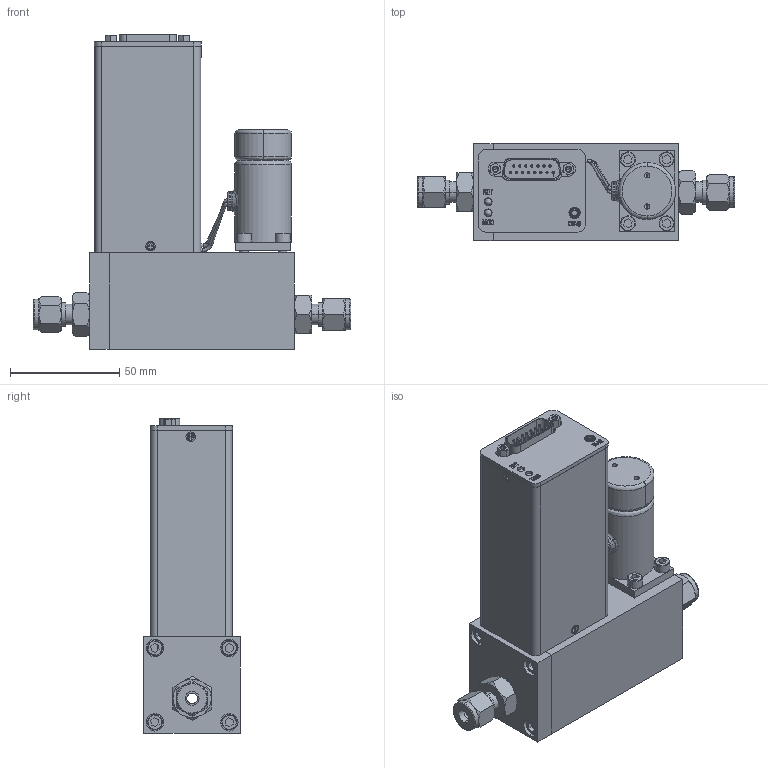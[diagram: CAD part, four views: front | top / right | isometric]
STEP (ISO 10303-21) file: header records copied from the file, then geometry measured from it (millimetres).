
FILE_DESCRIPTION (( 'STEP AP214' ), '1' );
FILE_NAME ('SLA5851-S-1B-1-L-REVB.STEP', '2023-03-08T21:07:43', ( '' ), ( '' ), 'SwSTEP 2.0', 'SolidWorks 2020', '' );
FILE_SCHEMA (( 'AUTOMOTIVE_DESIGN' ));
Length unit declared in the file: inch
Products named in the file (1): SLA5851-S-1B-1-L-REVB
Bounding box: 144.86 x 44.3 x 143.85 mm (x, y, z)
Volume: 63229.1 mm3; surface area: 98436.3 mm2
Topology: 53 solids, 53 shells, 1342 faces, 3306 edges, 2128 vertices
Faces by surface type: plane 687, cylinder 366, cone 195, bspline 94
Entity records: 61059 total; most frequent: CARTESIAN_POINT 11955, DIRECTION 6604, ORIENTED_EDGE 6596, EDGE_CURVE 3298, AXIS2_PLACEMENT_3D 2322, VERTEX_POINT 2128, LINE 1960, VECTOR 1960
